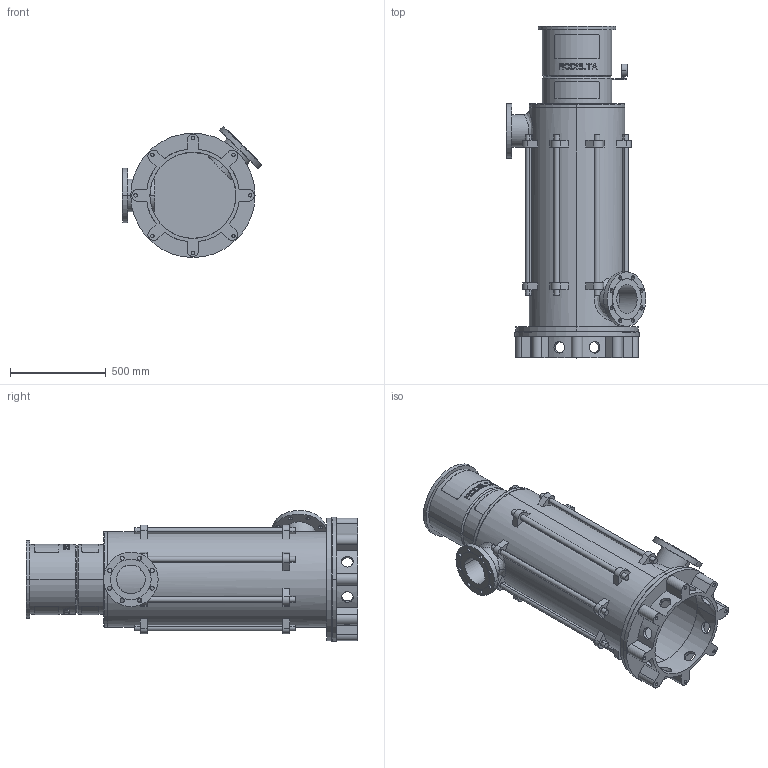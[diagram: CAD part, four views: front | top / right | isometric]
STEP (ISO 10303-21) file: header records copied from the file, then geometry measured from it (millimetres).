
FILE_DESCRIPTION((''),'2;1');
FILE_NAME('LS6_5TR_0GR_PN16_TOT_30KW','2025-10-23T16:03:25',('Lyritlocal'),(''),'CREO PARAMETRIC BY PTC INC, 2022014','CREO PARAMETRIC BY PTC INC, 2022014','');
FILE_SCHEMA(('CONFIG_CONTROL_DESIGN'));
Length unit declared in the file: millimetre
Products named in the file (1): LS6_5TR_0GR_PN16_TOT_30KW
Bounding box: 730.27 x 1735 x 685.27 mm (x, y, z)
Volume: 52530657 mm3; surface area: 7319932.4 mm2
Topology: 3 solids, 11 shells, 732 faces, 1889 edges, 1258 vertices
Faces by surface type: plane 438, cylinder 274, cone 12, bspline 8
Entity records: 24204 total; most frequent: CARTESIAN_POINT 6384, ORIENTED_EDGE 3746, DIRECTION 3535, EDGE_CURVE 1889, AXIS2_PLACEMENT_3D 1341, VERTEX_POINT 1258, EDGE_LOOP 895, VECTOR 853
